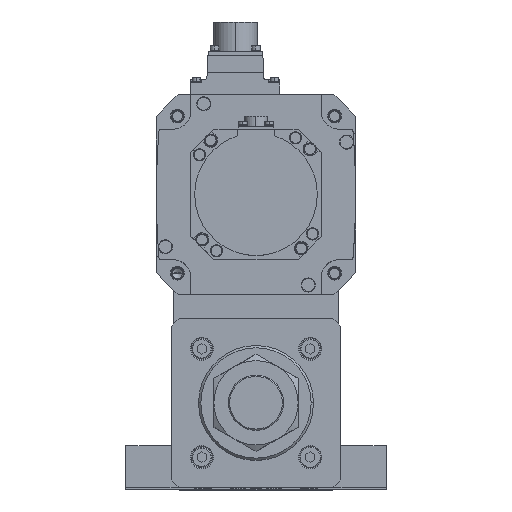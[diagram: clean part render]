
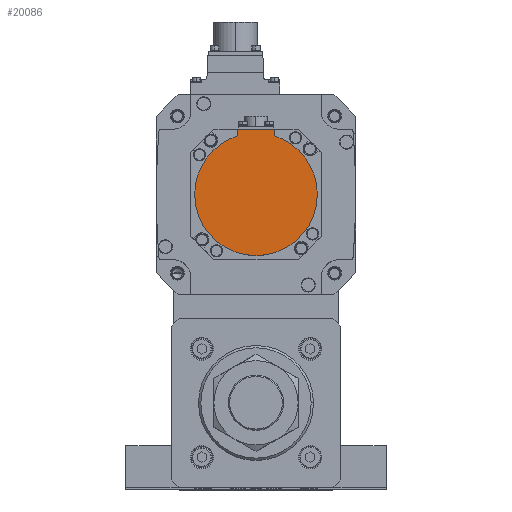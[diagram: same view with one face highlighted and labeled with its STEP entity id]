
A CAD part, top view. The second image highlights one B-rep face of the part: STEP entity #20086.
In plain terms, the highlighted planar face has unit normal (0, 0, 1) as drawn and (0, 0, -1) by its records, which use the part's own axes.
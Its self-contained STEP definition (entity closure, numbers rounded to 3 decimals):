
#266 = LINE ( 'NONE', #31322, #5757 ) ;
#1392 = EDGE_CURVE ( 'NONE', #31569, #6445, #7431, .T. ) ;
#2135 = DIRECTION ( 'NONE',  ( 0., 1., 0. ) ) ;
#2240 = CARTESIAN_POINT ( 'NONE',  ( -40., 0., -132.5 ) ) ;
#2903 = VERTEX_POINT ( 'NONE', #5132 ) ;
#3594 = ORIENTED_EDGE ( 'NONE', *, *, #14876, .F. ) ;
#3705 = CARTESIAN_POINT ( 'NONE',  ( 12., -38.158, -132.5 ) ) ;
#3843 = LINE ( 'NONE', #8514, #19389 ) ;
#4583 = CARTESIAN_POINT ( 'NONE',  ( -12., -42.5, -132.5 ) ) ;
#5132 = CARTESIAN_POINT ( 'NONE',  ( -12., -38.158, -132.5 ) ) ;
#5757 = VECTOR ( 'NONE', #22992, 1000. ) ;
#5977 = EDGE_CURVE ( 'NONE', #29493, #2903, #3843, .T. ) ;
#6445 = VERTEX_POINT ( 'NONE', #2240 ) ;
#7211 = CIRCLE ( 'NONE', #23471, 40. ) ;
#7431 = CIRCLE ( 'NONE', #20331, 40. ) ;
#8514 = CARTESIAN_POINT ( 'NONE',  ( -12., -40.329, -132.5 ) ) ;
#8650 = AXIS2_PLACEMENT_3D ( 'NONE', #26350, #12948, #10234 ) ;
#9838 = CARTESIAN_POINT ( 'NONE',  ( 0., 0., -132.5 ) ) ;
#10234 = DIRECTION ( 'NONE',  ( 1., 0., 0. ) ) ;
#10594 = AXIS2_PLACEMENT_3D ( 'NONE', #30231, #14250, #19656 ) ;
#12548 = VECTOR ( 'NONE', #2135, 1000. ) ;
#12948 = DIRECTION ( 'NONE',  ( 0., 0., 1. ) ) ;
#12977 = EDGE_CURVE ( 'NONE', #6445, #2903, #7211, .T. ) ;
#13523 = CARTESIAN_POINT ( 'NONE',  ( 40., 0., -132.5 ) ) ;
#14250 = DIRECTION ( 'NONE',  ( 0., 0., 1. ) ) ;
#14268 = EDGE_LOOP ( 'NONE', ( #18537, #31348, #33045, #16605, #3594, #27025 ) ) ;
#14876 = EDGE_CURVE ( 'NONE', #33271, #18285, #23071, .T. ) ;
#14915 = EDGE_CURVE ( 'NONE', #18285, #31569, #15448, .T. ) ;
#15101 = FACE_OUTER_BOUND ( 'NONE', #14268, .T. ) ;
#15448 = CIRCLE ( 'NONE', #8650, 40. ) ;
#15999 = EDGE_CURVE ( 'NONE', #33271, #29493, #266, .T. ) ;
#16468 = DIRECTION ( 'NONE',  ( 1., 0., 0. ) ) ;
#16605 = ORIENTED_EDGE ( 'NONE', *, *, #14915, .F. ) ;
#18285 = VERTEX_POINT ( 'NONE', #3705 ) ;
#18537 = ORIENTED_EDGE ( 'NONE', *, *, #5977, .T. ) ;
#19389 = VECTOR ( 'NONE', #24733, 1000. ) ;
#19421 = DIRECTION ( 'NONE',  ( 0., 0., 1. ) ) ;
#19656 = DIRECTION ( 'NONE',  ( 1., 0., 0. ) ) ;
#20086 = ADVANCED_FACE ( 'NONE', ( #15101 ), #22015, .F. ) ;
#20331 = AXIS2_PLACEMENT_3D ( 'NONE', #9838, #34094, #28999 ) ;
#22015 = PLANE ( 'NONE',  #10594 ) ;
#22992 = DIRECTION ( 'NONE',  ( -1., 0., 0. ) ) ;
#23071 = LINE ( 'NONE', #31412, #12548 ) ;
#23471 = AXIS2_PLACEMENT_3D ( 'NONE', #24706, #19421, #16468 ) ;
#24706 = CARTESIAN_POINT ( 'NONE',  ( 0., 0., -132.5 ) ) ;
#24733 = DIRECTION ( 'NONE',  ( 0., 1., 0. ) ) ;
#26350 = CARTESIAN_POINT ( 'NONE',  ( 0., 0., -132.5 ) ) ;
#27025 = ORIENTED_EDGE ( 'NONE', *, *, #15999, .T. ) ;
#28999 = DIRECTION ( 'NONE',  ( 1., 0., 0. ) ) ;
#29493 = VERTEX_POINT ( 'NONE', #4583 ) ;
#30231 = CARTESIAN_POINT ( 'NONE',  ( 0., -1.249, -132.5 ) ) ;
#31322 = CARTESIAN_POINT ( 'NONE',  ( 0., -42.5, -132.5 ) ) ;
#31348 = ORIENTED_EDGE ( 'NONE', *, *, #12977, .F. ) ;
#31412 = CARTESIAN_POINT ( 'NONE',  ( 12., -1.249, -132.5 ) ) ;
#31569 = VERTEX_POINT ( 'NONE', #13523 ) ;
#33014 = CARTESIAN_POINT ( 'NONE',  ( 12., -42.5, -132.5 ) ) ;
#33045 = ORIENTED_EDGE ( 'NONE', *, *, #1392, .F. ) ;
#33271 = VERTEX_POINT ( 'NONE', #33014 ) ;
#34094 = DIRECTION ( 'NONE',  ( 0., 0., 1. ) ) ;
